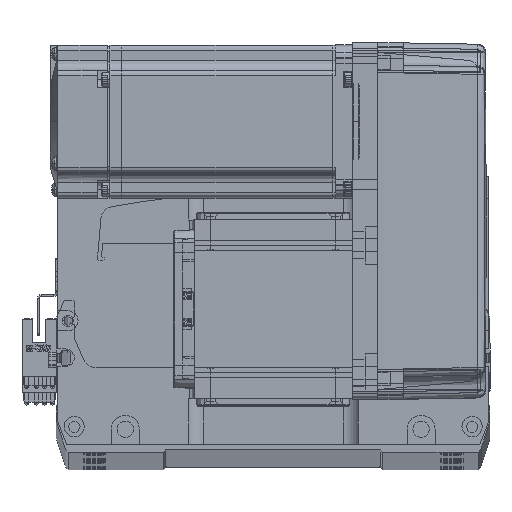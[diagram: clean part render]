
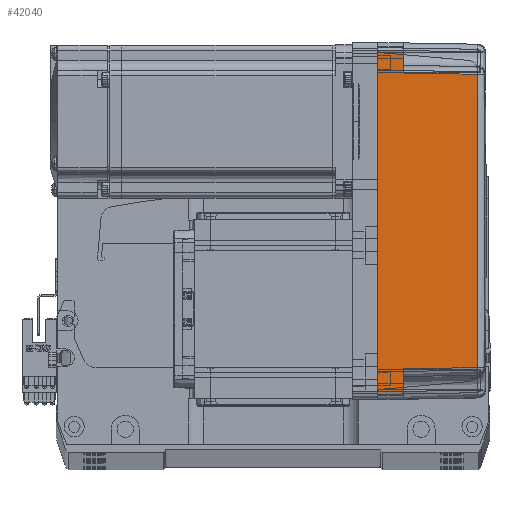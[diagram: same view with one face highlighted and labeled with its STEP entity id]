
A CAD part, top view. The second image highlights one B-rep face of the part: STEP entity #42040.
In plain terms, the highlighted planar face has unit normal (0.018, 0, 1) as drawn and (0, -1, 0.017) by its records, which use the part's own axes.
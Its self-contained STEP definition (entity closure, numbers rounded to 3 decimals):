
#1051 = VERTEX_POINT ( 'NONE', #2051 ) ;
#1962 = VERTEX_POINT ( 'NONE', #53188 ) ;
#2051 = CARTESIAN_POINT ( 'NONE',  ( -57.495, -35.32, 38.985 ) ) ;
#4118 = VECTOR ( 'NONE', #10677, 1000. ) ;
#4888 = CARTESIAN_POINT ( 'NONE',  ( -57.495, -35.32, 38.985 ) ) ;
#5977 = VERTEX_POINT ( 'NONE', #26528 ) ;
#8096 = EDGE_CURVE ( 'NONE', #1051, #5977, #29310, .T. ) ;
#9571 = EDGE_CURVE ( 'NONE', #53409, #61802, #18267, .T. ) ;
#10677 = DIRECTION ( 'NONE',  ( -0.017, -0.017, -1. ) ) ;
#15613 = EDGE_CURVE ( 'NONE', #54424, #22851, #41717, .T. ) ;
#16025 = VECTOR ( 'NONE', #36981, 1000. ) ;
#16371 = ORIENTED_EDGE ( 'NONE', *, *, #8096, .T. ) ;
#16616 = CARTESIAN_POINT ( 'NONE',  ( 0., -36., 0. ) ) ;
#16887 = VECTOR ( 'NONE', #55925, 1000. ) ;
#17380 = DIRECTION ( 'NONE',  ( -0.017, 0.017, 1. ) ) ;
#18267 = LINE ( 'NONE', #16616, #30925 ) ;
#19236 = CARTESIAN_POINT ( 'NONE',  ( 57.495, -35.32, 38.985 ) ) ;
#19592 = DIRECTION ( 'NONE',  ( 0.017, 0.017, 1. ) ) ;
#21551 = ORIENTED_EDGE ( 'NONE', *, *, #44808, .T. ) ;
#22434 = DIRECTION ( 'NONE',  ( -1., 0., 0. ) ) ;
#22851 = VERTEX_POINT ( 'NONE', #19236 ) ;
#23731 = VERTEX_POINT ( 'NONE', #74330 ) ;
#24555 = VECTOR ( 'NONE', #19592, 1000. ) ;
#26042 = CARTESIAN_POINT ( 'NONE',  ( 67., -36., 0. ) ) ;
#26264 = CARTESIAN_POINT ( 'NONE',  ( -67., -36., 0. ) ) ;
#26528 = CARTESIAN_POINT ( 'NONE',  ( -58., -35.825, 10. ) ) ;
#29310 = LINE ( 'NONE', #38766, #4118 ) ;
#30925 = VECTOR ( 'NONE', #22434, 1000. ) ;
#31737 = CARTESIAN_POINT ( 'NONE',  ( 67., -36., 0. ) ) ;
#35286 = ORIENTED_EDGE ( 'NONE', *, *, #72225, .T. ) ;
#35291 = B_SPLINE_CURVE_WITH_KNOTS ( 'NONE', 3,
 ( #74299, #51086, #50573, #4888 ),
 .UNSPECIFIED., .F., .F.,
 ( 4, 4 ),
 ( 0., 1. ),
 .UNSPECIFIED. ) ;
#36792 = DIRECTION ( 'NONE',  ( 0., -1., 0.017 ) ) ;
#36981 = DIRECTION ( 'NONE',  ( -1., 0., 0. ) ) ;
#37731 = CARTESIAN_POINT ( 'NONE',  ( 70., -35.825, 10. ) ) ;
#38766 = CARTESIAN_POINT ( 'NONE',  ( -57.495, -35.32, 38.985 ) ) ;
#41354 = LINE ( 'NONE', #37731, #16025 ) ;
#41717 = LINE ( 'NONE', #63438, #68813 ) ;
#42040 = ADVANCED_FACE ( 'NONE', ( #52682 ), #65846, .T. ) ;
#42081 = EDGE_CURVE ( 'NONE', #61802, #1962, #64426, .T. ) ;
#42575 = CARTESIAN_POINT ( 'NONE',  ( -66.959, -35.958, 2.39 ) ) ;
#43773 = AXIS2_PLACEMENT_3D ( 'NONE', #48638, #36792, #60303 ) ;
#44808 = EDGE_CURVE ( 'NONE', #53409, #23731, #54372, .T. ) ;
#46684 = ORIENTED_EDGE ( 'NONE', *, *, #73628, .T. ) ;
#48638 = CARTESIAN_POINT ( 'NONE',  ( 70., -36., 0. ) ) ;
#50573 = CARTESIAN_POINT ( 'NONE',  ( -19.165, -35.316, 39.181 ) ) ;
#51086 = CARTESIAN_POINT ( 'NONE',  ( 19.165, -35.316, 39.181 ) ) ;
#51390 = ORIENTED_EDGE ( 'NONE', *, *, #15613, .T. ) ;
#52682 = FACE_OUTER_BOUND ( 'NONE', #69648, .T. ) ;
#53188 = CARTESIAN_POINT ( 'NONE',  ( -66.826, -35.825, 10. ) ) ;
#53409 = VERTEX_POINT ( 'NONE', #31737 ) ;
#54372 = LINE ( 'NONE', #26042, #56193 ) ;
#54424 = VERTEX_POINT ( 'NONE', #56704 ) ;
#55925 = DIRECTION ( 'NONE',  ( -1., 0., 0. ) ) ;
#56193 = VECTOR ( 'NONE', #66539, 1000. ) ;
#56704 = CARTESIAN_POINT ( 'NONE',  ( 58., -35.825, 10. ) ) ;
#58391 = ORIENTED_EDGE ( 'NONE', *, *, #73498, .T. ) ;
#60303 = DIRECTION ( 'NONE',  ( 0., -0.017, -1. ) ) ;
#61802 = VERTEX_POINT ( 'NONE', #26264 ) ;
#63438 = CARTESIAN_POINT ( 'NONE',  ( 58., -35.825, 10. ) ) ;
#64426 = LINE ( 'NONE', #42575, #24555 ) ;
#65552 = ORIENTED_EDGE ( 'NONE', *, *, #42081, .F. ) ;
#65846 = PLANE ( 'NONE',  #43773 ) ;
#66539 = DIRECTION ( 'NONE',  ( -0.017, 0.017, 1. ) ) ;
#68813 = VECTOR ( 'NONE', #17380, 1000. ) ;
#69648 = EDGE_LOOP ( 'NONE', ( #21551, #46684, #51390, #35286, #16371, #58391, #65552, #70671 ) ) ;
#70671 = ORIENTED_EDGE ( 'NONE', *, *, #9571, .F. ) ;
#72225 = EDGE_CURVE ( 'NONE', #22851, #1051, #35291, .T. ) ;
#73498 = EDGE_CURVE ( 'NONE', #5977, #1962, #41354, .T. ) ;
#73628 = EDGE_CURVE ( 'NONE', #23731, #54424, #73816, .T. ) ;
#73816 = LINE ( 'NONE', #73825, #16887 ) ;
#73825 = CARTESIAN_POINT ( 'NONE',  ( 70., -35.825, 10. ) ) ;
#74299 = CARTESIAN_POINT ( 'NONE',  ( 57.495, -35.32, 38.985 ) ) ;
#74330 = CARTESIAN_POINT ( 'NONE',  ( 66.826, -35.825, 10. ) ) ;
